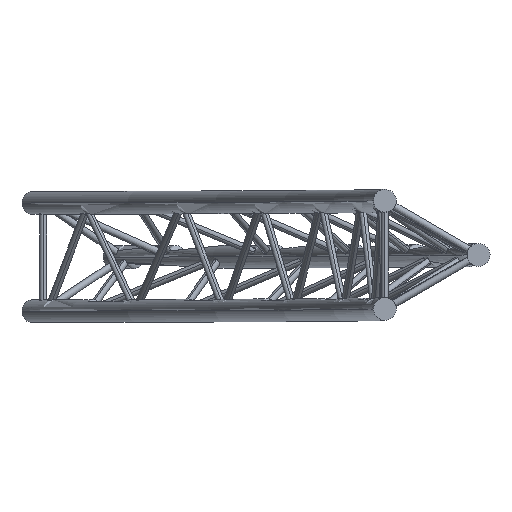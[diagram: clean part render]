
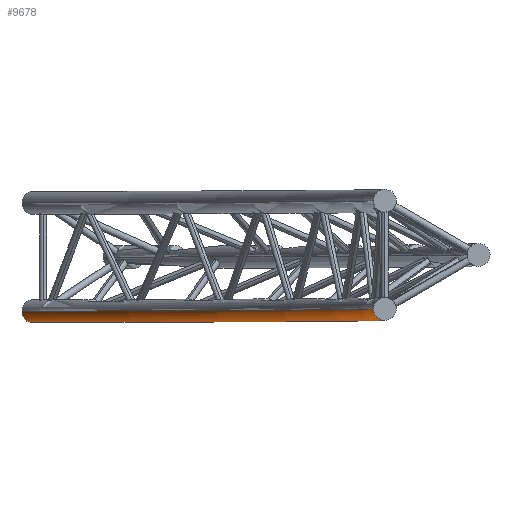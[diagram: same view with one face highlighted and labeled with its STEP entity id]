
A CAD part, top view. The second image highlights one B-rep face of the part: STEP entity #9678.
In plain terms, the highlighted toroidal (fillet/blend) face has major radius 5769.75 mm and minor radius 25 mm.
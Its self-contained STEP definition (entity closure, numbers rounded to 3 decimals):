
#753 = CARTESIAN_POINT ( 'NONE',  ( 0., -118.5, 0. ) ) ;
#756 = CIRCLE ( 'NONE', #758, 5794.752 ) ;
#757 = DIRECTION ( 'NONE',  ( 0., -1., 0. ) ) ;
#758 = AXIS2_PLACEMENT_3D ( 'NONE', #753, #757, #760 ) ;
#760 = DIRECTION ( 'NONE',  ( 0., 0., -1. ) ) ;
#1170 = CARTESIAN_POINT ( 'NONE',  ( 5018.402, -118.5, -2897.376 ) ) ;
#1363 = CARTESIAN_POINT ( 'NONE',  ( 4975.101, -118.5, -2872.376 ) ) ;
#1364 = DIRECTION ( 'NONE',  ( 0.866, 0., -0.5 ) ) ;
#1365 = DIRECTION ( 'NONE',  ( 0.5, 0., 0.866 ) ) ;
#1366 = CARTESIAN_POINT ( 'NONE',  ( 4996.752, -118.5, -2884.876 ) ) ;
#1367 = AXIS2_PLACEMENT_3D ( 'NONE', #1366, #1365, #1364 ) ;
#1368 = CIRCLE ( 'NONE', #1367, 25. ) ;
#1426 = DIRECTION ( 'NONE',  ( 0., 0., -1. ) ) ;
#1427 = DIRECTION ( 'NONE',  ( 0., -1., 0. ) ) ;
#1428 = CARTESIAN_POINT ( 'NONE',  ( 0., -118.5, 0. ) ) ;
#1429 = AXIS2_PLACEMENT_3D ( 'NONE', #1428, #1427, #1426 ) ;
#1430 = CIRCLE ( 'NONE', #1429, 5744.752 ) ;
#1431 = CARTESIAN_POINT ( 'NONE',  ( 5744.752, -118.5, 0. ) ) ;
#1432 = DIRECTION ( 'NONE',  ( 1., 0., 0. ) ) ;
#1433 = DIRECTION ( 'NONE',  ( 0., 0., 1. ) ) ;
#1434 = CARTESIAN_POINT ( 'NONE',  ( 5769.752, -118.5, 0. ) ) ;
#1435 = AXIS2_PLACEMENT_3D ( 'NONE', #1434, #1433, #1432 ) ;
#1436 = CIRCLE ( 'NONE', #1435, 25. ) ;
#5984 = CARTESIAN_POINT ( 'NONE',  ( 5794.752, -118.5, 0. ) ) ;
#5985 = DIRECTION ( 'NONE',  ( 0., 0., -1. ) ) ;
#5986 = DIRECTION ( 'NONE',  ( 0., -1., 0. ) ) ;
#5987 = CARTESIAN_POINT ( 'NONE',  ( 0., -118.5, 0. ) ) ;
#5988 = AXIS2_PLACEMENT_3D ( 'NONE', #5987, #5986, #5985 ) ;
#5989 = TOROIDAL_SURFACE ( 'NONE', #5988, 5769.752, 25. ) ;
#5994 = FACE_OUTER_BOUND ( 'NONE', #9703, .T. ) ;
#9542 = ORIENTED_EDGE ( 'NONE', *, *, #9580, .T. ) ;
#9543 = VERTEX_POINT ( 'NONE', #1170 ) ;
#9544 = EDGE_CURVE ( 'NONE', #9543, #9682, #756, .T. ) ;
#9580 = EDGE_CURVE ( 'NONE', #9582, #9543, #1368, .T. ) ;
#9581 = ORIENTED_EDGE ( 'NONE', *, *, #9544, .T. ) ;
#9582 = VERTEX_POINT ( 'NONE', #1363 ) ;
#9583 = ORIENTED_EDGE ( 'NONE', *, *, #9584, .F. ) ;
#9584 = EDGE_CURVE ( 'NONE', #9585, #9682, #1436, .T. ) ;
#9585 = VERTEX_POINT ( 'NONE', #1431 ) ;
#9586 = ORIENTED_EDGE ( 'NONE', *, *, #9587, .F. ) ;
#9587 = EDGE_CURVE ( 'NONE', #9582, #9585, #1430, .T. ) ;
#9678 = ADVANCED_FACE ( 'NONE', ( #5994 ), #5989, .T. ) ;
#9682 = VERTEX_POINT ( 'NONE', #5984 ) ;
#9703 = EDGE_LOOP ( 'NONE', ( #9542, #9581, #9583, #9586 ) ) ;
